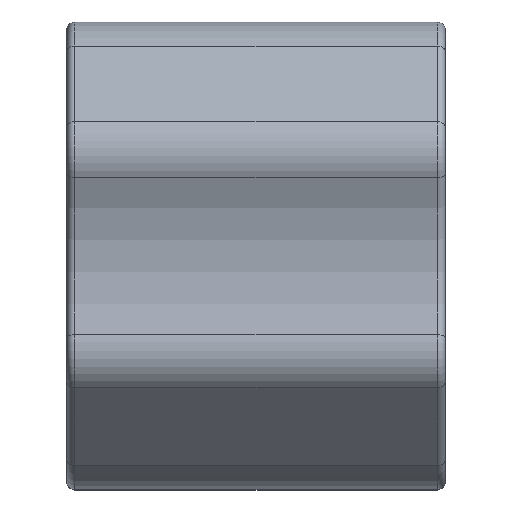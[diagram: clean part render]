
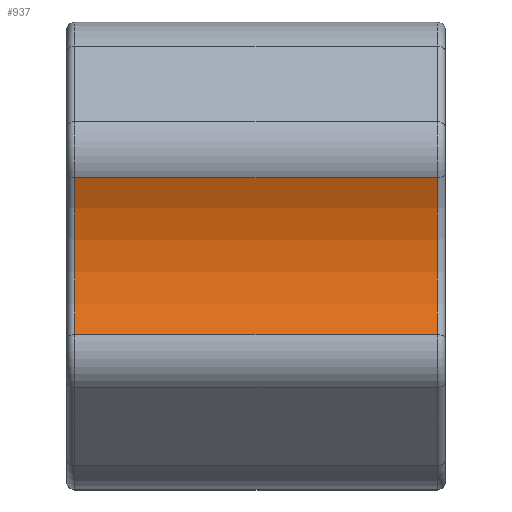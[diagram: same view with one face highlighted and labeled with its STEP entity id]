
A CAD part, top view. The second image highlights one B-rep face of the part: STEP entity #937.
In plain terms, the highlighted cylindrical face has radius 12 mm (diameter 24 mm), a partial arc.
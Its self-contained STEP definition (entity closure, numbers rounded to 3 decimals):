
#106=LINE('',#1679,#161);
#107=LINE('',#1684,#162);
#161=VECTOR('',#1290,1000.);
#162=VECTOR('',#1293,1000.);
#276=ORIENTED_EDGE('',*,*,#541,.T.);
#277=ORIENTED_EDGE('',*,*,#542,.T.);
#278=ORIENTED_EDGE('',*,*,#543,.T.);
#279=ORIENTED_EDGE('',*,*,#544,.T.);
#541=EDGE_CURVE('',#670,#671,#106,.T.);
#542=EDGE_CURVE('',#671,#672,#715,.F.);
#543=EDGE_CURVE('',#672,#673,#107,.F.);
#544=EDGE_CURVE('',#673,#670,#716,.T.);
#670=VERTEX_POINT('',#1680);
#671=VERTEX_POINT('',#1681);
#672=VERTEX_POINT('',#1683);
#673=VERTEX_POINT('',#1685);
#715=CIRCLE('',#1051,12.);
#716=CIRCLE('',#1052,12.);
#776=EDGE_LOOP('',(#276,#277,#278,#279));
#846=FACE_BOUND('',#776,.T.);
#900=CYLINDRICAL_SURFACE('',#1050,12.);
#937=ADVANCED_FACE('',(#846),#900,.F.);
#1050=AXIS2_PLACEMENT_3D('',#1678,#1288,#1289);
#1051=AXIS2_PLACEMENT_3D('',#1682,#1291,#1292);
#1052=AXIS2_PLACEMENT_3D('',#1686,#1294,#1295);
#1288=DIRECTION('',(-1.,0.,0.));
#1289=DIRECTION('',(0.,-1.,0.));
#1290=DIRECTION('',(-1.,0.,0.));
#1291=DIRECTION('',(1.,0.,0.));
#1292=DIRECTION('',(0.,1.,0.));
#1293=DIRECTION('',(-1.,0.,0.));
#1294=DIRECTION('',(1.,0.,0.));
#1295=DIRECTION('',(0.,1.,0.));
#1678=CARTESIAN_POINT('',(21.17,-87.12,22.668));
#1679=CARTESIAN_POINT('',(21.17,-81.989,11.82));
#1680=CARTESIAN_POINT('',(4.5,-81.989,11.82));
#1681=CARTESIAN_POINT('',(-17.5,-81.989,11.82));
#1682=CARTESIAN_POINT('',(-17.5,-87.12,22.668));
#1683=CARTESIAN_POINT('',(-17.5,-91.519,11.504));
#1684=CARTESIAN_POINT('',(21.17,-91.519,11.504));
#1685=CARTESIAN_POINT('',(4.5,-91.519,11.504));
#1686=CARTESIAN_POINT('',(4.5,-87.12,22.668));
